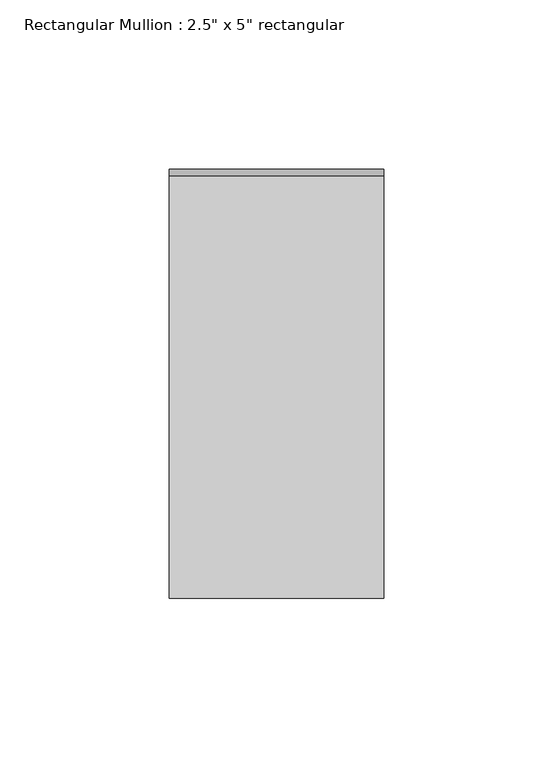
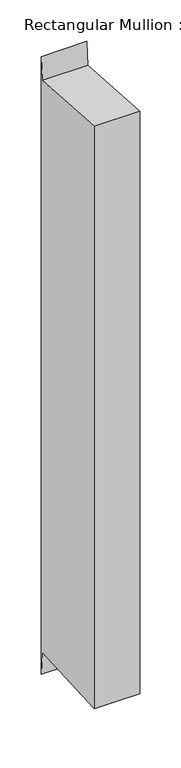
"""IFC4 building model written with IfcOpenShell, lengths in millimetres: member geometry."""

from ifc_helpers import new_model, si_unit, origin, place, context, project, spatial, faceted_brep, source, transform, mapped, element, save


def member_6ad7a984(model_context):
    return source(origin(), model_context, "Body", "Brep", [
        faceted_brep([(-31.75, 63.5, 29.7846233), (31.75, 63.5, 29.7846233), (31.75, 63.5, -880.6846233), (0.0, 63.5, -880.6846233), (-31.75, 63.5, -880.6846233), (-31.75, -63.5, 3.8736342), (-31.75, 61.4149606, -3.8662198), (-31.75, 61.4149606, -847.0337802), (-31.75, -63.5, -854.7736342), (31.75, -63.5, 3.8736342), (0.0, -63.5, -854.7736342), (31.75, -63.5, -854.7736342), (31.75, 61.4149606, -3.8662198), (31.75, 61.4149606, -847.0337802), (0.0, 61.4149606, -847.0337802)], [[[0, 1, 2, 3, 4]], [[5, 6, 0, 4, 7, 8]], [[9, 5, 8, 10, 11]], [[1, 12, 9, 11, 13, 2]], [[1, 0, 6, 12]], [[6, 5, 9, 12]], [[2, 13, 14, 3]], [[13, 11, 10, 14]], [[10, 8, 7, 14]], [[7, 4, 3, 14]]]),
    ])


if __name__ == "__main__":
    model = new_model("IFC4")
    model_context = context("Model", 3, world=origin())
    ifc_project = project(units=[si_unit("LENGTHUNIT", "METRE", prefix="MILLI")], contexts=[model_context])
    site = spatial("IfcSite", under=ifc_project)
    building = spatial("IfcBuilding", under=site)
    placement = place(None, origin())
    member_shape = member_6ad7a984(model_context)
    element("IfcMember", 1, ObjectType="Rectangular Mullion : 2.5\" x 5\" rectangular", at=placement, inside=building, context=model_context, shape_type="MappedRepresentation", body=[
        mapped(member_shape, transform((0.0, 0.0, 0.0), x_axis=(1.0, 0.0, 0.0), y_axis=(0.0, 1.0, 0.0), z_axis=(0.0, 0.0, 1.0))),
    ])
    save(model, "model.ifc")
